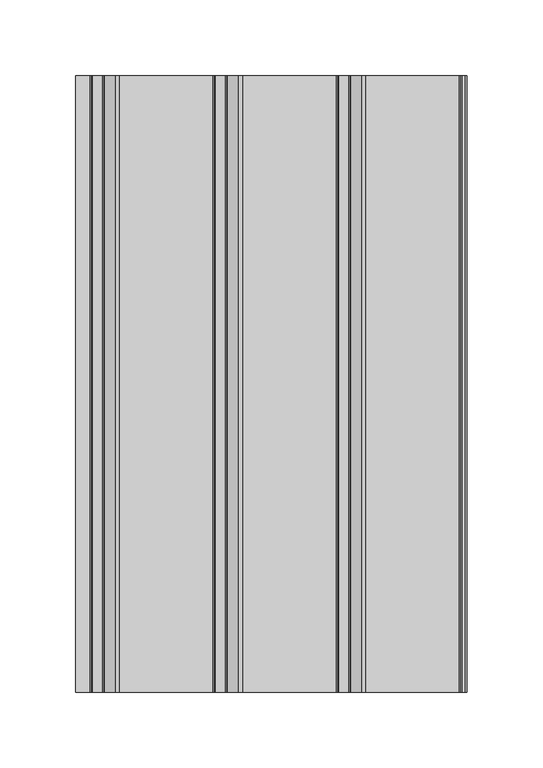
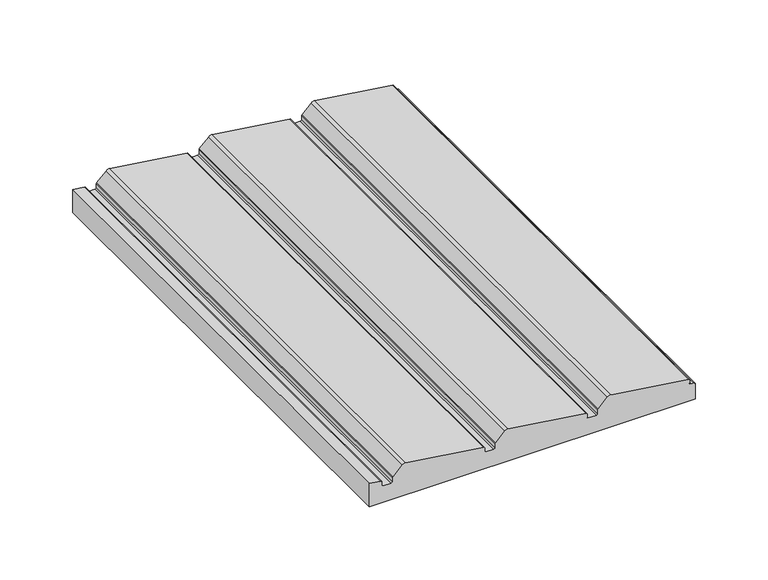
"""IFC4 building model written with IfcOpenShell, lengths in millimetres: proxy geometry, Spinneybeck_Porto 3 : Porto 3."""

from ifc_helpers import new_model, si_unit, point, frame, frame_2d, origin, place, context, project, spatial, polyline, circle_curve, trimmed, segment, composite_curve, outline, extrude, source, transform, mapped, element, save


def specialty_equipment_15079611(model_context):
    return source(origin(), model_context, "Body", "SweptSolid", [
        extrude(outline(composite_curve([segment(polyline([(0.0, -55.0128011), (0.0, 203.2), (12.5078125, 203.2)]), True, "CONTINUOUS"), segment(trimmed(circle_curve(frame_2d((12.5078125, 202.2078125)), 0.9921875), [point((12.5078125, 203.2))], [point((13.5, 202.2078125))], False, "CARTESIAN"), True, "CONTINUOUS"), segment(polyline([(13.5, 202.2078125), (13.5, 199.9465867)]), True, "CONTINUOUS"), segment(trimmed(circle_curve(frame_2d((14.4921875, 199.9465867)), 0.9921875), [point((13.5, 199.9465867))], [point((14.4921875, 198.9543992))], True, "CARTESIAN"), True, "CONTINUOUS"), segment(polyline([(14.4921875, 198.9543992), (17.1606187, 198.9543992)]), True, "CONTINUOUS"), segment(trimmed(circle_curve(frame_2d((17.1606187, 197.9749387)), 0.9794605), [point((17.1606187, 198.9543992))], [point((18.1109851, 198.2118916))], False, "CARTESIAN"), True, "CONTINUOUS"), segment(polyline([(18.1109851, 198.2118916), (26.76592, 136.6288293)]), True, "CONTINUOUS"), segment(trimmed(circle_curve(frame_2d((23.4253126, 136.1593376)), 3.3734375), [point((26.76592, 136.6288293))], [point((25.8106931, 133.773957))], False, "CARTESIAN"), True, "CONTINUOUS"), segment(polyline([(25.8106931, 133.773957), (18.5722569, 126.5355208)]), True, "CONTINUOUS"), segment(trimmed(circle_curve(frame_2d((17.6791911, 127.4285866)), 1.2629857), [point((18.5722569, 126.5355208))], [point((17.6791911, 126.1656008))], False, "CARTESIAN"), True, "CONTINUOUS"), segment(polyline([(17.6791911, 126.1656008), (14.4921875, 126.1656008)]), True, "CONTINUOUS"), segment(trimmed(circle_curve(frame_2d((14.4921875, 125.1734133)), 0.9921875), [point((14.4921875, 126.1656008))], [point((13.5, 125.1734133))], True, "CARTESIAN"), True, "CONTINUOUS"), segment(polyline([(13.5, 125.1734133), (13.5, 118.6665867)]), True, "CONTINUOUS"), segment(trimmed(circle_curve(frame_2d((14.4921875, 118.6665867)), 0.9921875), [point((13.5, 118.6665867))], [point((14.4921875, 117.6743992))], True, "CARTESIAN"), True, "CONTINUOUS"), segment(polyline([(14.4921875, 117.6743992), (17.1606187, 117.6743992)]), True, "CONTINUOUS"), segment(trimmed(circle_curve(frame_2d((17.1606187, 116.6949387)), 0.9794605), [point((17.1606187, 117.6743992))], [point((18.1109851, 116.9318916))], False, "CARTESIAN"), True, "CONTINUOUS"), segment(polyline([(18.1109851, 116.9318916), (26.76592, 55.3488293)]), True, "CONTINUOUS"), segment(trimmed(circle_curve(frame_2d((23.4253126, 54.8793376)), 3.3734375), [point((26.76592, 55.3488293))], [point((25.8106931, 52.493957))], False, "CARTESIAN"), True, "CONTINUOUS"), segment(polyline([(25.8106931, 52.493957), (18.5722569, 45.2555208)]), True, "CONTINUOUS"), segment(trimmed(circle_curve(frame_2d((17.6791911, 46.1485866)), 1.2629857), [point((18.5722569, 45.2555208))], [point((17.6791911, 44.8856008))], False, "CARTESIAN"), True, "CONTINUOUS"), segment(polyline([(17.6791911, 44.8856008), (14.4921875, 44.8856008)]), True, "CONTINUOUS"), segment(trimmed(circle_curve(frame_2d((14.4921875, 43.8934133)), 0.9921875), [point((14.4921875, 44.8856008))], [point((13.5, 43.8934133))], True, "CARTESIAN"), True, "CONTINUOUS"), segment(polyline([(13.5, 43.8934133), (13.5, 37.3865867)]), True, "CONTINUOUS"), segment(trimmed(circle_curve(frame_2d((14.4921875, 37.3865867)), 0.9921875), [point((13.5, 37.3865867))], [point((14.4921875, 36.3943992))], True, "CARTESIAN"), True, "CONTINUOUS"), segment(polyline([(14.4921875, 36.3943992), (17.1606187, 36.3943992)]), True, "CONTINUOUS"), segment(trimmed(circle_curve(frame_2d((17.1606187, 35.4149387)), 0.9794605), [point((17.1606187, 36.3943992))], [point((18.1109851, 35.6518916))], False, "CARTESIAN"), True, "CONTINUOUS"), segment(polyline([(18.1109851, 35.6518916), (26.76592, -25.9311707)]), True, "CONTINUOUS"), segment(trimmed(circle_curve(frame_2d((23.4253126, -26.4006624)), 3.3734375), [point((26.76592, -25.9311707))], [point((25.8106931, -28.786043))], False, "CARTESIAN"), True, "CONTINUOUS"), segment(polyline([(25.8106931, -28.786043), (18.5722569, -36.0244792)]), True, "CONTINUOUS"), segment(trimmed(circle_curve(frame_2d((17.6791911, -35.1314134)), 1.2629857), [point((18.5722569, -36.0244792))], [point((17.6791911, -36.3943992))], False, "CARTESIAN"), True, "CONTINUOUS"), segment(polyline([(17.6791911, -36.3943992), (14.4921875, -36.3943992)]), True, "CONTINUOUS"), segment(trimmed(circle_curve(frame_2d((14.4921875, -37.3865867)), 0.9921875), [point((14.4921875, -36.3943992))], [point((13.5, -37.3865867))], True, "CARTESIAN"), True, "CONTINUOUS"), segment(polyline([(13.5, -37.3865867), (13.5, -43.8934133)]), True, "CONTINUOUS"), segment(trimmed(circle_curve(frame_2d((14.4921875, -43.8934133)), 0.9921875), [point((13.5, -43.8934133))], [point((14.4921875, -44.8856008))], True, "CARTESIAN"), True, "CONTINUOUS"), segment(polyline([(14.4921875, -44.8856008), (17.1606187, -44.8856008)]), True, "CONTINUOUS"), segment(trimmed(circle_curve(frame_2d((17.1606187, -45.8650613)), 0.9794605), [point((17.1606187, -44.8856008))], [point((18.1109851, -45.6281084))], False, "CARTESIAN"), True, "CONTINUOUS"), segment(polyline([(18.1109851, -45.6281084), (19.4299176, -55.0128011), (0.0, -55.0128011)]), True, "CONTINUOUS")], self_intersect=False)), frame((0.0, -203.2, 0.0), z_axis=(0.0, 1.0, 0.0), x_axis=(0.0, 0.0, 1.0)), (0.0, 0.0, 1.0), 406.4),
    ])


if __name__ == "__main__":
    model = new_model("IFC4")
    model_context = context("Model", 3, world=origin())
    ifc_project = project(units=[si_unit("LENGTHUNIT", "METRE", prefix="MILLI")], contexts=[model_context])
    site = spatial("IfcSite", under=ifc_project)
    building = spatial("IfcBuilding", under=site)
    placement = place(None, origin())
    specialty_equipment_shape = specialty_equipment_15079611(model_context)
    element("IfcBuildingElementProxy", 1, Name="Spinneybeck_Porto 3 : Porto 3", ObjectType="Spinneybeck_Porto 3 : Porto 3", at=placement, inside=building, context=model_context, shape_type="MappedRepresentation", body=[
        mapped(specialty_equipment_shape, transform((0.0, 0.0, 0.0), x_axis=(1.0, 0.0, 0.0), y_axis=(0.0, 1.0, 0.0), z_axis=(0.0, 0.0, 1.0))),
    ])
    save(model, "model.ifc")
